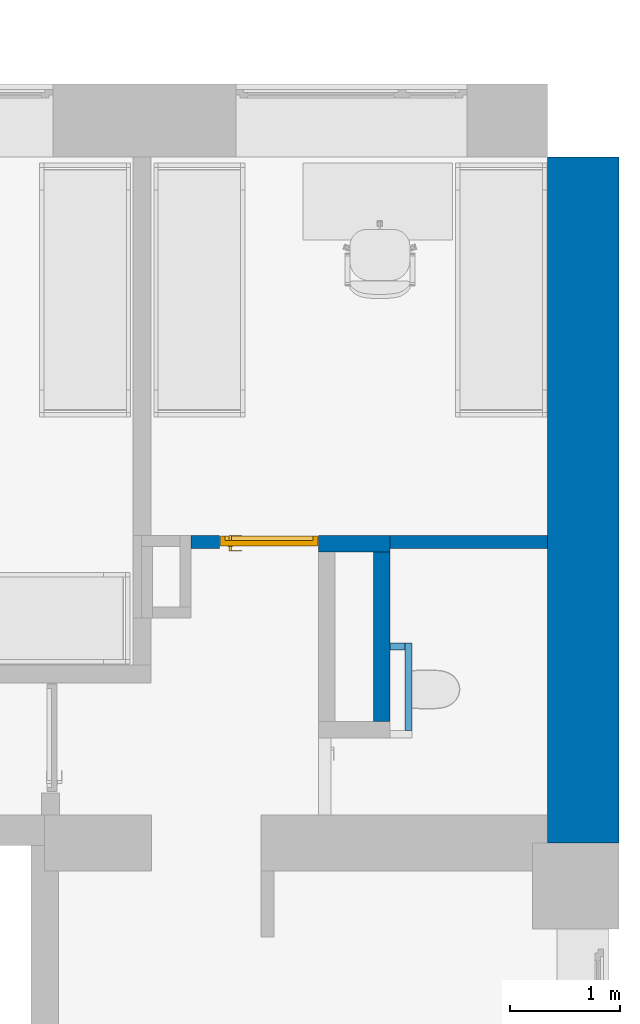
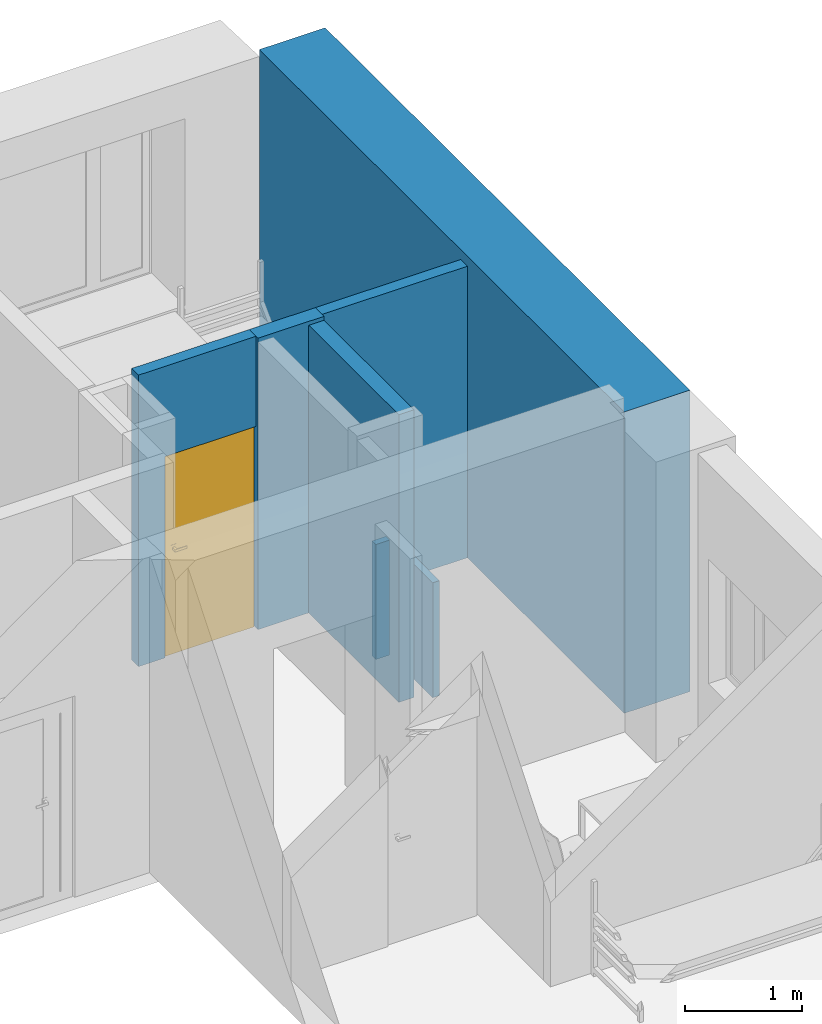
# One storey, part 14 of 46: 7 walls, 1 door, 2 openings.
"""IFC2X3 building model written with IfcOpenShell, lengths in millimetres."""

import ifcopenshell
import ifcopenshell.guid

model = None  # the IFC model being written
_history = None  # IfcOwnerHistory: only IFC2X3 demands one
_inside = {}  # id of a spatial element -> (the spatial element, [elements in it])
_under = {}  # id of a project, library or spatial element -> (it, [spatial elements below it])
_declared = {}  # id of a project -> (the project, [libraries it declares])
_typed = {}  # id of a type object -> (the type object, [elements of that type])
_made_of = {}  # id of a material, layer set ... -> (it, [elements and type objects made of it])


def new_model(schema):
    """Start an empty IFC model of exactly this schema.

    Asked for "IFC4X3", IfcOpenShell would pick the latest addendum, in which some entities
    have other attributes; the version numbers below select the first issue.
    IFC2X3 requires an IfcOwnerHistory on every rooted entity: one is made here for all.
    """
    global model, _history
    if schema == "IFC4X3":
        model = ifcopenshell.file(schema_version=(4, 3, 0, 0))
    else:
        model = ifcopenshell.file(schema=schema)
    _inside.clear()
    _under.clear()
    _declared.clear()
    _typed.clear()
    _made_of.clear()
    _history = None
    if model.schema == "IFC2X3":
        org = make("IfcOrganization", Name="unknown")
        user = make(
            "IfcPersonAndOrganization",
            ThePerson=make("IfcPerson", FamilyName="unknown"),
            TheOrganization=org,
        )
        app = make(
            "IfcApplication",
            ApplicationDeveloper=org,
            Version="unknown",
            ApplicationFullName="unknown",
            ApplicationIdentifier="unknown",
        )
        _history = make(
            "IfcOwnerHistory",
            OwningUser=user,
            OwningApplication=app,
            ChangeAction="ADDED",
            CreationDate=0,
        )
    return model


def make(cls, **values):
    """One entity of the class cls with the attributes given. An attribute that is None is left unset."""
    return model.create_entity(
        cls, **{name: value for name, value in values.items() if value is not None}
    )


def entity(cls, *values):
    """Any entity or typed value of the class cls, its attributes in the order of the schema. None: left unset."""
    e = model.create_entity(cls)
    for i, value in enumerate(values):
        if value is not None:
            e[i] = value
    return e


def rooted(cls, **values):
    """An entity with a GlobalId (a new one), such as an element, a storey or a relation."""
    return make(cls, GlobalId=ifcopenshell.guid.new(), OwnerHistory=_history, **values)


def si_unit(unit_type, name, prefix=None):
    """IfcSIUnit, for example si_unit("LENGTHUNIT", "METRE", prefix="MILLI")."""
    return make("IfcSIUnit", UnitType=unit_type, Prefix=prefix, Name=name)


def converted_unit(unit_type, name, factor, base, dimensions=None, offset=None):
    """IfcConversionBasedUnit, such as the inch: factor (a typed value) times the base unit."""
    return make(
        "IfcConversionBasedUnit"
        if offset is None
        else "IfcConversionBasedUnitWithOffset",
        ConversionOffset=offset,
        Dimensions=None
        if dimensions is None
        else entity("IfcDimensionalExponents", *dimensions),
        UnitType=unit_type,
        Name=name,
        ConversionFactor=make(
            "IfcMeasureWithUnit", ValueComponent=factor, UnitComponent=base
        ),
    )


def derived_unit(unit_type, elements):
    """IfcDerivedUnit: a product of units, each with its exponent."""
    return make(
        "IfcDerivedUnit",
        Elements=[
            make("IfcDerivedUnitElement", Unit=unit, Exponent=power)
            for unit, power in elements
        ],
        UnitType=unit_type,
    )


def assignment(units):
    """IfcUnitAssignment: the units of a project."""
    return None if units is None else make("IfcUnitAssignment", Units=units)


def point(xyz):
    """IfcCartesianPoint."""
    return None if xyz is None else make("IfcCartesianPoint", Coordinates=xyz)


def direction(xyz):
    """IfcDirection."""
    return None if xyz is None else make("IfcDirection", DirectionRatios=xyz)


def frame(location, z_axis=None, x_axis=None):
    """IfcAxis2Placement3D, a coordinate frame: its origin and axes. An axis left out is left unset."""
    return make(
        "IfcAxis2Placement3D",
        Location=point(location),
        Axis=direction(z_axis),
        RefDirection=direction(x_axis),
    )


def frame_2d(location, x_axis=None):
    """IfcAxis2Placement2D, a coordinate frame in the plane: its origin and x axis."""
    return make(
        "IfcAxis2Placement2D", Location=point(location), RefDirection=direction(x_axis)
    )


def origin():
    """The frame at (0, 0, 0) with its axes left unset."""
    return frame((0.0, 0.0, 0.0))


def place(relative_to, where):
    """IfcLocalPlacement: puts the frame where relative to a parent placement (None: the world)."""
    return make(
        "IfcLocalPlacement", PlacementRelTo=relative_to, RelativePlacement=where
    )


def context(
    kind, dimensions, precision=None, world=None, true_north=None, identifier=None
):
    """IfcGeometricRepresentationContext, for example the 3D "Model" context."""
    return make(
        "IfcGeometricRepresentationContext",
        ContextIdentifier=identifier,
        ContextType=kind,
        CoordinateSpaceDimension=dimensions,
        Precision=precision,
        WorldCoordinateSystem=world,
        TrueNorth=true_north,
    )


def subcontext(parent, identifier, kind, view, scale=None):
    """IfcGeometricRepresentationSubContext, for example "Body" below "Model"."""
    return make(
        "IfcGeometricRepresentationSubContext",
        ContextIdentifier=identifier,
        ContextType=kind,
        ParentContext=parent,
        TargetScale=scale,
        TargetView=view,
    )


def project(units=None, contexts=None):
    """IfcProject with its units and contexts."""
    return rooted(
        "IfcProject",
        Name="project",
        RepresentationContexts=contexts,
        UnitsInContext=assignment(units),
    )


def spatial(cls, under=None, at=None, **own):
    """A site, building, storey or space (cls), placed at a placement, below another one or the project."""
    s = rooted(cls, ObjectPlacement=at, **own)
    if under is not None:
        _under.setdefault(under.id(), (under, []))[1].append(s)
    return s


def polyline(points):
    """IfcPolyline through the points."""
    return make("IfcPolyline", Points=[point(p) for p in points])


def profile(cls, at=None, kind="AREA", **sizes):
    """A parametric profile (cls). Its sizes go by their IFC names, for example OverallWidth=200.0."""
    return make(cls, ProfileType=kind, Position=at, **sizes)


def rectangle(**sizes):
    """IfcRectangleProfileDef."""
    return profile("IfcRectangleProfileDef", **sizes)


def extrude(swept, where, along, depth):
    """IfcExtrudedAreaSolid: the profile swept, set in the frame where, extruded along a direction by depth."""
    return make(
        "IfcExtrudedAreaSolid",
        SweptArea=swept,
        Position=where,
        ExtrudedDirection=direction(along),
        Depth=depth,
    )


def clip(a, b, op="DIFFERENCE"):
    """IfcBooleanClippingResult: the solid a cut by the half space b."""
    return make(
        "IfcBooleanClippingResult", Operator=op, FirstOperand=a, SecondOperand=b
    )


def bounded_halfspace(plane, agree, where, boundary):
    """IfcPolygonalBoundedHalfSpace: a half space limited to a polygon's prism."""
    return make(
        "IfcPolygonalBoundedHalfSpace",
        BaseSurface=make("IfcPlane", Position=plane),
        AgreementFlag=agree,
        Position=where,
        PolygonalBoundary=boundary,
    )


def faces_of(points, faces, orient=None, outer=None):
    """IfcFace entities. A face is a list of loops; a loop is a list of indices into points, from 0.

    orient and outer hold one flag for each loop. By default every Orientation is true, the
    first loop of a face is its IfcFaceOuterBound and the others are IfcFaceBound.
    """
    made = []
    for i, loops in enumerate(faces):
        bounds = []
        for j, loop in enumerate(loops):
            is_outer = j == 0 if outer is None else outer[i][j]
            bounds.append(
                make(
                    "IfcFaceOuterBound" if is_outer else "IfcFaceBound",
                    Bound=make("IfcPolyLoop", Polygon=[points[k] for k in loop]),
                    Orientation=True if orient is None else orient[i][j],
                )
            )
        made.append(make("IfcFace", Bounds=bounds))
    return made


def faceted_brep(points, faces, orient=None, outer=None, voids=None):
    """IfcFacetedBrep: a solid bounded by flat faces; with voids (closed shells), ...WithVoids."""
    shared = [point(p) for p in points]
    hull = make("IfcClosedShell", CfsFaces=faces_of(shared, faces, orient, outer))
    if voids is None:
        return make("IfcFacetedBrep", Outer=hull)
    return make(
        "IfcFacetedBrepWithVoids",
        Outer=hull,
        Voids=[
            make(cls, CfsFaces=faces_of(shared, fs, o, b)) for cls, fs, o, b in voids
        ],
    )


def shape(context_of_items, identifier, shape_type, items):
    """IfcShapeRepresentation: the items that make up one representation, for example the "Body"."""
    return make(
        "IfcShapeRepresentation",
        ContextOfItems=context_of_items,
        RepresentationIdentifier=identifier,
        RepresentationType=shape_type,
        Items=items,
    )


def source(mapping_origin, context_of_items, identifier, shape_type, items):
    """IfcRepresentationMap: a shape defined once, which mapped items show again and again."""
    return make(
        "IfcRepresentationMap",
        MappingOrigin=mapping_origin,
        MappedRepresentation=shape(context_of_items, identifier, shape_type, items),
    )


def transform(
    local_origin,
    x_axis=None,
    y_axis=None,
    z_axis=None,
    scale=None,
    scale2=None,
    scale3=None,
    uniform=True,
):
    """IfcCartesianTransformationOperator3D, or its non-uniform kind. x_axis, y_axis, z_axis: its Axis1, 2, 3."""
    if uniform:
        return make(
            "IfcCartesianTransformationOperator3D",
            Axis1=direction(x_axis),
            Axis2=direction(y_axis),
            LocalOrigin=point(local_origin),
            Scale=scale,
            Axis3=direction(z_axis),
        )
    return make(
        "IfcCartesianTransformationOperator3DnonUniform",
        Axis1=direction(x_axis),
        Axis2=direction(y_axis),
        LocalOrigin=point(local_origin),
        Scale=scale,
        Axis3=direction(z_axis),
        Scale2=scale2,
        Scale3=scale3,
    )


def mapped(mapping_source, mapping_target):
    """IfcMappedItem: shows the shape of a source again, moved by a transform."""
    return make(
        "IfcMappedItem", MappingSource=mapping_source, MappingTarget=mapping_target
    )


def material(Name=None, Category=None):
    """IfcMaterial."""
    return make("IfcMaterial", Name=Name, Category=Category)


def material_list(materials):
    """IfcMaterialList."""
    return make("IfcMaterialList", Materials=materials)


def layer(
    of_material, thickness, ventilated=None, Name=None, Category=None, Priority=None
):
    """IfcMaterialLayer: one layer of a wall or slab, of a material (None: an air gap)."""
    return make(
        "IfcMaterialLayer",
        Material=of_material,
        LayerThickness=thickness,
        IsVentilated=ventilated,
        Name=Name,
        Category=Category,
        Priority=Priority,
    )


def layer_set(layers, Name=None):
    """IfcMaterialLayerSet."""
    return make("IfcMaterialLayerSet", MaterialLayers=layers, LayerSetName=Name)


def layer_usage(for_layer_set, set_direction, sense, offset, extent=None):
    """IfcMaterialLayerSetUsage: how a layer set lies in its element."""
    return make(
        "IfcMaterialLayerSetUsage",
        ForLayerSet=for_layer_set,
        LayerSetDirection=set_direction,
        DirectionSense=sense,
        OffsetFromReferenceLine=offset,
        ReferenceExtent=extent,
    )


def made_of(thing, what):
    """Note that an element or type object is made of a material, layer set ...; save() writes the relation."""
    if what is not None:
        _made_of.setdefault(what.id(), (what, []))[1].append(thing)
    return thing


def type_object(cls, material=None, **own):
    """A type object (cls), such as IfcWallType, which elements share."""
    return made_of(rooted(cls, **own), material)


def type_shapes(of_type, sources):
    """Give a type object the sources (RepresentationMaps) that its elements show as mapped items."""
    of_type.RepresentationMaps = sources


def element(
    cls,
    number,
    at=None,
    inside=None,
    cuts=None,
    type_object=None,
    material=None,
    context=None,
    identifier="Body",
    shape_type=None,
    held_by="IfcProductDefinitionShape",
    body=None,
    shapes=None,
    **own,
):
    """One element of the class cls, such as IfcWall. Its Tag is "e" and its number.

    at: its placement. inside: the storey or other place that contains it. cuts: it is an
    opening in that element (IfcRelVoidsElement). A single representation is given by context,
    identifier, shape_type and body (its items); several are given by shapes. held_by: the class
    of the entity that holds the representations. save() writes the other relations.
    """
    e = rooted(cls, Tag="e%d" % number, ObjectPlacement=at, **own)
    if body is not None:
        shapes = [shape(context, identifier, shape_type, body)]
    if shapes is not None:
        e.Representation = make(held_by, Representations=shapes)
    if inside is not None:
        _inside.setdefault(inside.id(), (inside, []))[1].append(e)
    if cuts is not None:
        rooted(
            "IfcRelVoidsElement", RelatingBuildingElement=cuts, RelatedOpeningElement=e
        )
    if type_object is not None:
        _typed.setdefault(type_object.id(), (type_object, []))[1].append(e)
    return made_of(e, material)


def fill(opening, filler):
    """IfcRelFillsElement: the door or window that sits in an opening."""
    return rooted(
        "IfcRelFillsElement",
        RelatingOpeningElement=opening,
        RelatedBuildingElement=filler,
    )


def aggregate(whole, parts):
    """IfcRelAggregates: a whole, such as a stair, and the parts it consists of."""
    return rooted("IfcRelAggregates", RelatingObject=whole, RelatedObjects=parts)


def save(model, path):
    """Write the relations noted so far, then the file.

    IfcRelAggregates (storeys below a building ...), IfcRelContainedInSpatialStructure (elements
    in a storey), IfcRelDefinesByType, IfcRelAssociatesMaterial and IfcRelDeclares: one each for
    every whole, place, type object, material and project.
    """
    for whole, parts in _under.values():
        aggregate(whole, parts)
    for where, things in _inside.values():
        rooted(
            "IfcRelContainedInSpatialStructure",
            RelatedElements=things,
            RelatingStructure=where,
        )
    for kind, things in _typed.values():
        rooted("IfcRelDefinesByType", RelatedObjects=things, RelatingType=kind)
    for what, things in _made_of.values():
        rooted("IfcRelAssociatesMaterial", RelatedObjects=things, RelatingMaterial=what)
    for by, libraries in _declared.values():
        rooted("IfcRelDeclares", RelatingContext=by, RelatedDefinitions=libraries)
    model.write(path)


model = new_model("IFC2X3")

# Units and contexts
model_context = context("Model", 3, precision=0.01, world=origin(), true_north=direction((6.12303176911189e-17, 1.0)))
body_context = subcontext(model_context, "Body", "Model", "MODEL_VIEW")
ifc_project = project(units=[si_unit("LENGTHUNIT", "METRE", prefix="MILLI"), si_unit("AREAUNIT", "SQUARE_METRE"), si_unit("VOLUMEUNIT", "CUBIC_METRE"), converted_unit("PLANEANGLEUNIT", "DEGREE", entity("IfcRatioMeasure", 0.0174532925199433), si_unit("PLANEANGLEUNIT", "RADIAN"), dimensions=[0, 0, 0, 0, 0, 0, 0]), si_unit("MASSUNIT", "GRAM", prefix="KILO"), derived_unit("MASSDENSITYUNIT", [(si_unit("MASSUNIT", "GRAM", prefix="KILO"), 1), (si_unit("LENGTHUNIT", "METRE"), -3)]), si_unit("TIMEUNIT", "SECOND"), si_unit("FREQUENCYUNIT", "HERTZ"), si_unit("THERMODYNAMICTEMPERATUREUNIT", "DEGREE_CELSIUS"), derived_unit("THERMALTRANSMITTANCEUNIT", [(si_unit("MASSUNIT", "GRAM", prefix="KILO"), 1), (si_unit("THERMODYNAMICTEMPERATUREUNIT", "KELVIN"), -1), (si_unit("TIMEUNIT", "SECOND"), -3)]), derived_unit("VOLUMETRICFLOWRATEUNIT", [(si_unit("LENGTHUNIT", "METRE"), 3), (si_unit("TIMEUNIT", "SECOND"), -1)]), si_unit("ELECTRICCURRENTUNIT", "AMPERE"), si_unit("ELECTRICVOLTAGEUNIT", "VOLT"), si_unit("POWERUNIT", "WATT"), si_unit("FORCEUNIT", "NEWTON", prefix="KILO"), si_unit("ILLUMINANCEUNIT", "LUX"), si_unit("LUMINOUSFLUXUNIT", "LUMEN"), si_unit("LUMINOUSINTENSITYUNIT", "CANDELA"), derived_unit("USERDEFINED", [(si_unit("MASSUNIT", "GRAM", prefix="KILO"), -1), (si_unit("LENGTHUNIT", "METRE"), -2), (si_unit("TIMEUNIT", "SECOND"), 3), (si_unit("LUMINOUSFLUXUNIT", "LUMEN"), 1)]), derived_unit("LINEARVELOCITYUNIT", [(si_unit("LENGTHUNIT", "METRE"), 1), (si_unit("TIMEUNIT", "SECOND"), -1)]), si_unit("PRESSUREUNIT", "PASCAL"), derived_unit("USERDEFINED", [(si_unit("LENGTHUNIT", "METRE"), -2), (si_unit("MASSUNIT", "GRAM", prefix="KILO"), 1), (si_unit("TIMEUNIT", "SECOND"), -2)]), derived_unit("LINEARFORCEUNIT", [(si_unit("MASSUNIT", "GRAM", prefix="KILO"), 1), (si_unit("LENGTHUNIT", "METRE"), 1), (si_unit("TIMEUNIT", "SECOND"), -2), (si_unit("LENGTHUNIT", "METRE"), -1)]), derived_unit("PLANARFORCEUNIT", [(si_unit("MASSUNIT", "GRAM", prefix="KILO"), 1), (si_unit("LENGTHUNIT", "METRE"), 1), (si_unit("TIMEUNIT", "SECOND"), -2), (si_unit("LENGTHUNIT", "METRE"), -2)])], contexts=[model_context])

# Site, building, storey
site_placement = place(None, origin())
site = spatial("IfcSite", under=ifc_project, at=site_placement, Name="Default", CompositionType="ELEMENT")
building_placement = place(site_placement, origin())
building = spatial("IfcBuilding", under=site, at=building_placement, Name="SMA ARH", CompositionType="ELEMENT")
storey_placement = place(building_placement, frame((0.0, 0.0, 9910.0)))
storey = spatial("IfcBuildingStorey", under=building, at=storey_placement, Name="4 Korrus", CompositionType="ELEMENT", Elevation=9909.9999999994)

# Wall
ifc_material_1 = material(Name="_ol.olev sein")
ifc_layer_1 = layer(ifc_material_1, 650.0)
ifc_layer_set_1 = layer_set([ifc_layer_1], Name="Basic Wall:Generic - 650mm")
ifc_layer_usage_1 = layer_usage(ifc_layer_set_1, "AXIS2", "POSITIVE", -325.0)
wall_type_1 = type_object("IfcWallType", Name="Basic Wall:Generic - 650mm", PredefinedType="STANDARD", material=ifc_layer_set_1)
wall_1_placement = place(storey_placement, frame((38640.0, 6265.0, 0.0), z_axis=(0.0, 0.0, 1.0), x_axis=(0.0, 1.0, 0.0)))
element("IfcWallStandardCase", 1, at=wall_1_placement, inside=storey, type_object=wall_type_1, material=ifc_layer_usage_1, Name="Basic Wall:Generic - 650mm", ObjectType="Basic Wall:Generic - 650mm", context=body_context, shape_type="SweptSolid", body=[
    extrude(rectangle(XDim=6234.99999999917, YDim=650.0, at=frame_2d((3117.49999999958, -2.27373675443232e-13), x_axis=(-1.0, 0.0))), origin(), (0.0, 0.0, 1.0), 3145.00000000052),
])

# Wall, opening
ifc_material_2 = material(Name="EST. Müüritis. Väikeplokk. Kergkruusplokk")
ifc_layer_2 = layer(ifc_material_2, 150.0)
ifc_layer_set_2 = layer_set([ifc_layer_2], Name="Basic Wall:SS-02_ 150mm šahtide vahesein")
ifc_layer_usage_2 = layer_usage(ifc_layer_set_2, "AXIS2", "POSITIVE", -75.0)
wall_type_2 = type_object("IfcWallType", Name="Basic Wall:SS-02_ 150mm šahtide vahesein", PredefinedType="STANDARD", material=ifc_layer_set_2)
wall_2_placement = place(storey_placement, frame((36230.0, 8984.5014052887, 0.0)))
wall_2 = element("IfcWallStandardCase", 2, at=wall_2_placement, inside=storey, type_object=wall_type_2, material=ifc_layer_usage_2, Name="Basic Wall:SS-02_ 150mm šahtide vahesein", ObjectType="Basic Wall:SS-02_ 150mm šahtide vahesein", context=body_context, shape_type="SweptSolid", body=[
    extrude(rectangle(XDim=649.999999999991, YDim=150.000000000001, at=frame_2d((324.999999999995, 4.61852778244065e-13), x_axis=(-1.0, 0.0))), origin(), (0.0, 0.0, 1.0), 3041.0500000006),
])
opening_1_placement = place(wall_2_placement, origin())
element("IfcOpeningElement", 3, at=opening_1_placement, cuts=wall_2, Name="Basic Wall:SS-02_ 150mm šahtide vahesein", ObjectType="Opening", context=body_context, shape_type="SweptSolid", body=[
    extrude(rectangle(XDim=2099.99999999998, YDim=899.999999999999, at=frame_2d((-2.1600499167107e-12, -1.02318153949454e-12), x_axis=(0.0, 1.0))), frame((-450.0, -1449.0, 1050.0), z_axis=(0.0, 1.0, 0.0), x_axis=(-1.0, 0.0, 0.0)), (0.0, 0.0, 1.0), 3048.0),
])

# Walls
ifc_layer_usage_3 = layer_usage(ifc_layer_set_2, "AXIS2", "POSITIVE", -75.0)
wall_3_placement = place(storey_placement, frame((36805.0, 8909.50140528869, 0.0), z_axis=(0.0, 0.0, 1.0), x_axis=(0.0, -1.0, 0.0)))
element("IfcWallStandardCase", 4, at=wall_3_placement, inside=storey, type_object=wall_type_2, material=ifc_layer_usage_3, Name="Basic Wall:SS-02_ 150mm šahtide vahesein", ObjectType="Basic Wall:SS-02_ 150mm šahtide vahesein", context=body_context, shape_type="Clipping", body=[
    clip(extrude(rectangle(XDim=1539.50139590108, YDim=150.000000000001, at=frame_2d((769.75069795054, 0.0), x_axis=(-1.0, 0.0))), origin(), (0.0, 0.0, 1.0), 3001.0500000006), bounded_halfspace(frame((0.0, -75.0, 3001.0500000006), z_axis=(0.0, 0.0, -1.0), x_axis=(-1.0, 0.0, 0.0)), True, frame((0.0, -75.0, 3001.0500000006)), polyline([(0.0, 0.0), (1539.50139590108, 0.0), (1539.50139590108, 150.0), (0.0, 150.0), (0.0, 75.0), (0.0, 0.0)]))),
])
ifc_material_3 = material(Name="EST. Ehitusplaat. Kipsplaat")
ifc_layer_3 = layer(ifc_material_3, 12.5)
ifc_layer_4 = layer(ifc_material_3, 12.5)
ifc_material_4 = material(Name="EST. Soojustus. Mineraalvill. Default")
ifc_layer_5 = layer(ifc_material_4, 66.0)
ifc_layer_6 = layer(ifc_material_3, 12.5)
ifc_layer_7 = layer(ifc_material_3, 12.5)
ifc_layer_set_3 = layer_set([ifc_layer_3, ifc_layer_4, ifc_layer_5, ifc_layer_6, ifc_layer_7], Name="Basic Wall:SS-05_Kips, 66mm metallkarkass")
ifc_layer_usage_4 = layer_usage(ifc_layer_set_3, "AXIS2", "NEGATIVE", 58.0)
wall_type_3 = type_object("IfcWallType", Name="Basic Wall:SS-05_Kips, 66mm metallkarkass", PredefinedType="STANDARD", material=ifc_layer_set_3)
wall_4_placement = place(storey_placement, frame((36805.0, 9001.5014052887, 0.0)))
element("IfcWallStandardCase", 5, at=wall_4_placement, inside=storey, type_object=wall_type_3, material=ifc_layer_usage_4, Name="Basic Wall:SS-05_Kips, 66mm metallkarkass", ObjectType="Basic Wall:SS-05_Kips, 66mm metallkarkass", context=body_context, shape_type="SweptSolid", body=[
    extrude(rectangle(XDim=1435.00001631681, YDim=116.0, at=frame_2d((792.500008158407, 2.20268248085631e-13), x_axis=(-1.0, 0.0))), origin(), (0.0, 0.0, 1.0), 3041.0500000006),
])

# Wall, opening, door
wall_5_placement = place(storey_placement, frame((36305.0, 9001.5014052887, 0.0), z_axis=(0.0, 0.0, 1.0), x_axis=(-1.0, 0.0, 0.0)))
wall_5 = element("IfcWall", 6, at=wall_5_placement, inside=storey, type_object=wall_type_3, Name="Basic Wall:SS-05_Kips, 66mm metallkarkass", ObjectType="Basic Wall:SS-05_Kips, 66mm metallkarkass", context=body_context, shape_type="Brep", body=[
    faceted_brep([(1235.7499836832, -58.0, 3041.0500000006), (0.0, -58.0, 3041.0500000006), (0.0, -58.0, 3001.0500000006), (75.0, -58.0, 3001.0500000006), (75.0, -58.0, 2100.0), (975.0, -58.0, 2100.0), (975.0, -58.0, 0.0), (1235.7499836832, -58.0, 0.0), (1235.7499836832, -58.0, 2980.0), (0.0, 58.0, 3041.0500000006), (1235.7499836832, 58.0, 3041.0500000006), (1235.7499836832, 58.0, 0.0), (975.0, 58.0, 0.0), (975.0, 58.0, 2100.0), (75.0, 58.0, 2100.0), (75.0, 58.0, 3001.0500000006), (0.0, 58.0, 3001.0500000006)], [[[0, 1, 2, 3, 4, 5, 6, 7, 8]], [[9, 10, 11, 12, 13, 14, 15, 16]], [[11, 7, 6, 12]], [[1, 0, 10, 9]], [[13, 5, 4, 14]], [[5, 13, 12, 6]], [[0, 8, 7, 11, 10]], [[1, 9, 16, 2]], [[2, 16, 15, 3]], [[3, 15, 14, 4]]]),
])
opening_2_placement = place(wall_5_placement, frame((75.0000163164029, -58.0, 0.0)))
opening_2 = element("IfcOpeningElement", 7, at=opening_2_placement, cuts=wall_5, Name="SMA_D01, 1-poolne:SU-P-05 - 900x2100 TUBA:1", ObjectType="Opening", context=body_context, shape_type="SweptSolid", body=[
    extrude(rectangle(XDim=2099.99999999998, YDim=900.0, at=frame_2d((1049.99999999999, 450.0), x_axis=(1.0, 0.0))), frame((0.0, 0.0, 0.0), z_axis=(0.0, 1.0, 0.0), x_axis=(0.0, 0.0, 1.0)), (0.0, 0.0, 1.0), 116.0),
])
ifc_material_5 = material(Name="EST. Metall. Alumiinium. Värvitud. RAL7023 (Concrete grey)")
ifc_material_6 = material(Name="<Unnamed>")
ifc_material_7 = material(Name="EST. Klaas. 3x. Default")
ifc_material_list = material_list([ifc_material_5, ifc_material_6, ifc_material_5, ifc_material_6, ifc_material_6, ifc_material_7, ifc_material_5])
door_style = type_object("IfcDoorStyle", Name="SMA_D01, 1-poolne:SU-P-05 - 900x2100 TUBA", ConstructionType="NOTDEFINED", OperationType="SINGLE_SWING_LEFT", ParameterTakesPrecedence=False, Sizeable=False, material=ifc_material_list)
shared_shape = source(origin(), body_context, "Body", "Brep", [
    faceted_brep([(790.0, 6.0, 1112.5), (695.0, 6.0, 1112.5), (695.0, 1.0, 1112.5), (815.0, 1.0, 1112.5), (815.0, 44.0, 1112.5), (790.0, 44.0, 1112.5), (790.0, 6.0, 1087.5), (790.0, 44.0, 1087.5), (815.0, 44.0, 1087.5), (815.0, 1.0, 1087.5), (695.0, 1.0, 1087.5), (695.0, 6.0, 1087.5)], [[[0, 1, 2, 3, 4, 5]], [[6, 7, 8, 9, 10, 11]], [[5, 7, 6, 0]], [[4, 8, 7, 5]], [[3, 9, 8, 4]], [[2, 10, 9, 3]], [[1, 11, 10, 2]], [[0, 6, 11, 1]]]),
    faceted_brep([(777.500000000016, 44.0, 1137.5), (827.500000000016, 44.0, 1137.5), (827.500000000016, 46.0, 1137.5), (777.500000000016, 46.0, 1137.5), (777.500000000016, 44.0, 1017.5), (777.500000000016, 46.0, 1017.5), (827.500000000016, 46.0, 1017.5), (827.500000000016, 44.0, 1017.5)], [[[0, 1, 2, 3]], [[4, 5, 6, 7]], [[3, 5, 4, 0]], [[2, 6, 5, 3]], [[1, 7, 6, 2]], [[0, 4, 7, 1]]]),
    faceted_brep([(790.0, 136.0, 1112.5), (790.0, 98.0, 1112.5), (815.0, 98.0, 1112.5), (815.0, 141.0, 1112.5), (695.0, 141.0, 1112.5), (695.0, 136.0, 1112.5), (790.0, 136.0, 1087.5), (695.0, 136.0, 1087.5), (695.0, 141.0, 1087.5), (815.0, 141.0, 1087.5), (815.0, 98.0, 1087.5), (790.0, 98.0, 1087.5)], [[[0, 1, 2, 3, 4, 5]], [[6, 7, 8, 9, 10, 11]], [[1, 0, 6, 11]], [[2, 1, 11, 10]], [[3, 2, 10, 9]], [[4, 3, 9, 8]], [[5, 4, 8, 7]], [[0, 5, 7, 6]]]),
    faceted_brep([(777.500000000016, 98.0, 1137.5), (777.500000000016, 96.0, 1137.5), (827.500000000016, 96.0, 1137.5), (827.500000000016, 98.0, 1137.5), (777.500000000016, 98.0, 1017.5), (827.500000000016, 98.0, 1017.5), (827.500000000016, 96.0, 1017.5), (777.500000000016, 96.0, 1017.5)], [[[0, 1, 2, 3]], [[4, 5, 6, 7]], [[1, 0, 4, 7]], [[2, 1, 7, 6]], [[3, 2, 6, 5]], [[0, 3, 5, 4]]]),
    faceted_brep([(50.0, 6.0, 30.0), (50.0, 46.0, 30.0), (50.0, 46.0, 20.0), (50.0, 46.0, 0.0), (50.0, 6.0, 0.0), (850.0, 6.0, 30.0), (850.0, 6.0, 0.0), (850.0, 46.0, 0.0), (850.0, 46.0, 20.0), (850.0, 46.0, 30.0), (35.0, 46.0, 0.0), (35.0, 96.0, 0.0), (865.0, 96.0, 0.0), (865.0, 46.0, 0.0), (35.0, 96.0, 20.0), (35.0, 46.0, 20.0), (865.0, 96.0, 20.0), (865.0, 46.0, 20.0)], [[[0, 1, 2, 3, 4]], [[5, 6, 7, 8, 9]], [[4, 6, 5, 0]], [[3, 10, 11, 12, 13, 7, 6, 4]], [[9, 8, 2, 1]], [[0, 5, 9, 1]], [[14, 11, 10, 15]], [[16, 17, 13, 12]], [[15, 2, 8, 17, 16, 14]], [[10, 3, 2, 15]], [[14, 16, 12, 11]], [[17, 8, 7, 13]]]),
    faceted_brep([(10.0, 6.0, 0.0), (10.0, 96.0, 0.0), (35.0, 96.0, 0.0), (35.0, 46.0, 0.0), (50.0, 46.0, 0.0), (50.0, 6.0, 0.0), (50.0, 6.0, 2050.0), (850.0, 6.0, 2050.0), (850.0, 6.0, 0.0), (890.0, 6.0, 0.0), (890.0, 6.0, 2090.0), (10.0, 6.0, 2090.0), (50.0, 46.0, 2050.0), (35.0, 46.0, 2065.0), (865.0, 46.0, 2065.0), (865.0, 46.0, 0.0), (850.0, 46.0, 0.0), (850.0, 46.0, 2050.0), (35.0, 96.0, 2065.0), (10.0, 96.0, 2090.0), (890.0, 96.0, 2090.0), (890.0, 96.0, 0.0), (865.0, 96.0, 0.0), (865.0, 96.0, 2065.0)], [[[0, 1, 2, 3, 4, 5]], [[5, 6, 7, 8, 9, 10, 11, 0]], [[4, 12, 6, 5]], [[3, 13, 14, 15, 16, 17, 12, 4]], [[2, 18, 13, 3]], [[1, 19, 20, 21, 22, 23, 18, 2]], [[0, 11, 19, 1]], [[9, 21, 20, 10]], [[8, 16, 15, 22, 21, 9]], [[7, 17, 16, 8]], [[14, 23, 22, 15]], [[6, 12, 17, 7]], [[13, 18, 23, 14]], [[10, 20, 19, 11]]]),
    faceted_brep([(865.0, 46.0, 2065.0), (35.0, 46.0, 2065.0), (35.0, 46.0, 20.0), (865.0, 46.0, 20.0), (865.0, 96.0, 2065.0), (865.0, 96.0, 20.0), (35.0, 96.0, 20.0), (35.0, 96.0, 2065.0)], [[[0, 1, 2, 3]], [[4, 5, 6, 7]], [[3, 5, 4, 0]], [[2, 6, 5, 3]], [[1, 7, 6, 2]], [[0, 4, 7, 1]]]),
])
type_shapes(door_style, [shared_shape])
door_placement = place(opening_2_placement, frame((-1.63164004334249e-05, 0.0, 0.0)))
door = element("IfcDoor", 8, at=door_placement, inside=storey, type_object=door_style, material=ifc_material_5, Name="SMA_D01, 1-poolne:SU-P-05 - 900x2100 TUBA", ObjectType="SMA_D01, 1-poolne:SU-P-05 - 900x2100 TUBA", OverallHeight=2099.99999999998, OverallWidth=899.999999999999, context=body_context, shape_type="MappedRepresentation", body=[
    mapped(shared_shape, transform((0.0, 0.0, 0.0), scale=1.0)),
])
fill(opening_2, door)

# Walls
ifc_material_8 = material(Name="EST. Põrand. Plaatkate")
ifc_layer_8 = layer(ifc_material_8, 10.0)
ifc_layer_9 = layer(ifc_material_3, 12.5)
ifc_material_9 = material(Name="EST. Õhkvahe. Roov. Kipsplaadi alusroov. Vertikaalne")
ifc_layer_10 = layer(ifc_material_9, 42.0)
ifc_layer_set_4 = layer_set([ifc_layer_8, ifc_layer_9, ifc_layer_10], Name="Basic Wall:SS-04 - loputuskast")
ifc_layer_usage_5 = layer_usage(ifc_layer_set_4, "AXIS2", "POSITIVE", -32.25)
wall_type_4 = type_object("IfcWallType", Name="Basic Wall:SS-04 - loputuskast", PredefinedType="STANDARD", material=ifc_layer_set_4)
wall_6_placement = place(storey_placement, frame((37047.7499836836, 7284.50000938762, 0.0), z_axis=(0.0, 0.0, 1.0), x_axis=(0.0, 1.0, 0.0)))
element("IfcWallStandardCase", 9, at=wall_6_placement, inside=storey, type_object=wall_type_4, material=ifc_layer_usage_5, Name="Basic Wall:SS-04 - loputuskast", ObjectType="Basic Wall:SS-04 - loputuskast", context=body_context, shape_type="SweptSolid", body=[
    extrude(rectangle(XDim=800.0, YDim=64.5000000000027, at=frame_2d((400.0, 1.74793512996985e-12), x_axis=(-1.0, 0.0))), origin(), (0.0, 0.0, 1.0), 1200.0),
])
ifc_layer_usage_6 = layer_usage(ifc_layer_set_4, "AXIS2", "POSITIVE", -32.25)
wall_7_placement = place(storey_placement, frame((37015.4999836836, 8052.25000938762, 0.0), z_axis=(0.0, 0.0, 1.0), x_axis=(-1.0, 0.0, 0.0)))
element("IfcWallStandardCase", 10, at=wall_7_placement, inside=storey, type_object=wall_type_4, material=ifc_layer_usage_6, Name="Basic Wall:SS-04 - loputuskast", ObjectType="Basic Wall:SS-04 - loputuskast", context=body_context, shape_type="SweptSolid", body=[
    extrude(rectangle(XDim=135.499999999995, YDim=64.5000000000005, at=frame_2d((67.7499999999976, -1.03028696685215e-13), x_axis=(-1.0, 0.0))), origin(), (0.0, 0.0, 1.0), 1200.0),
])

save(model, "model.ifc")
